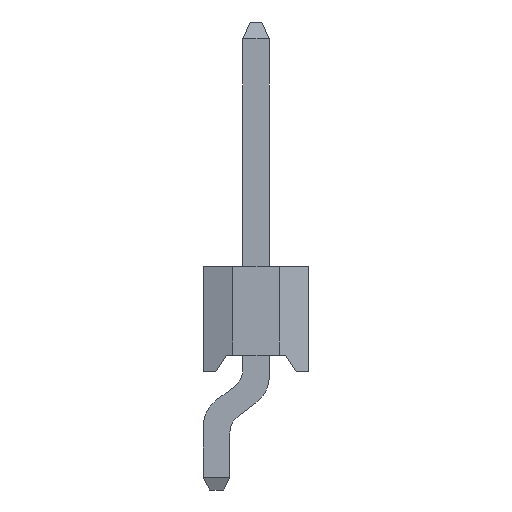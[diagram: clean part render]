
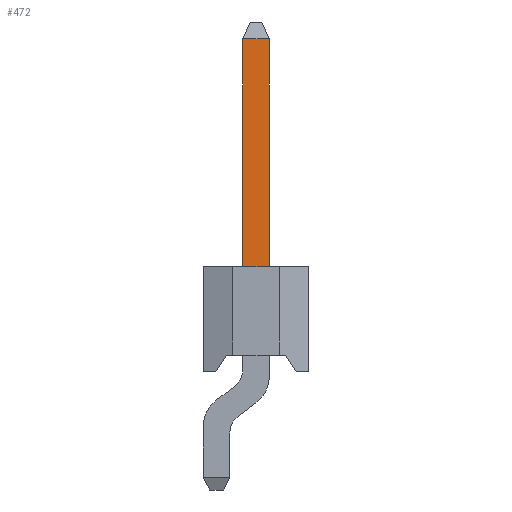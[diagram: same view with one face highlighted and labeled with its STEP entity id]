
A CAD part, left-side view. The second image highlights one B-rep face of the part: STEP entity #472.
In plain terms, the highlighted planar face has unit normal (-1, 0, 0).
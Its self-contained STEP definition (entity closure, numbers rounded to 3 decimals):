
#472=ADVANCED_FACE('',(#2314),#1448,.T.);
#1448=PLANE('',#18233);
#2314=FACE_OUTER_BOUND('',#3344,.T.);
#3344=EDGE_LOOP('',(#5030,#5031,#5032,#5033));
#5030=ORIENTED_EDGE('',*,*,#11684,.T.);
#5031=ORIENTED_EDGE('',*,*,#11685,.T.);
#5032=ORIENTED_EDGE('',*,*,#11686,.F.);
#5033=ORIENTED_EDGE('',*,*,#11670,.F.);
#9994=VERTEX_POINT('',#25476);
#9995=VERTEX_POINT('',#25477);
#10002=VERTEX_POINT('',#25503);
#10003=VERTEX_POINT('',#25505);
#11670=EDGE_CURVE('',#9994,#9995,#14214,.T.);
#11684=EDGE_CURVE('',#9994,#10002,#14228,.T.);
#11685=EDGE_CURVE('',#10002,#10003,#14229,.T.);
#11686=EDGE_CURVE('',#9995,#10003,#14230,.T.);
#14214=LINE('',#25475,#16542);
#14228=LINE('',#25502,#16556);
#14229=LINE('',#25504,#16557);
#14230=LINE('',#25506,#16558);
#16542=VECTOR('',#20171,1.);
#16556=VECTOR('',#20195,1.);
#16557=VECTOR('',#20196,1.);
#16558=VECTOR('',#20197,1.);
#18233=AXIS2_PLACEMENT_3D('',#25507,#20198,#20199);
#20171=DIRECTION('',(0.,1.,0.));
#20195=DIRECTION('',(0.,0.,1.));
#20196=DIRECTION('',(0.,1.,0.));
#20197=DIRECTION('',(0.,0.,1.));
#20198=DIRECTION('',(-1.,0.,0.));
#20199=DIRECTION('',(0.,0.,1.));
#25475=CARTESIAN_POINT('',(0.955,0.935,2.1));
#25476=CARTESIAN_POINT('',(0.955,0.935,2.1));
#25477=CARTESIAN_POINT('',(0.955,1.565,2.1));
#25502=CARTESIAN_POINT('',(0.955,0.935,7.9));
#25503=CARTESIAN_POINT('',(0.955,0.935,7.5));
#25504=CARTESIAN_POINT('',(0.955,0.935,7.5));
#25505=CARTESIAN_POINT('',(0.955,1.565,7.5));
#25506=CARTESIAN_POINT('',(0.955,1.565,7.9));
#25507=CARTESIAN_POINT('',(0.955,0.935,2.1));
